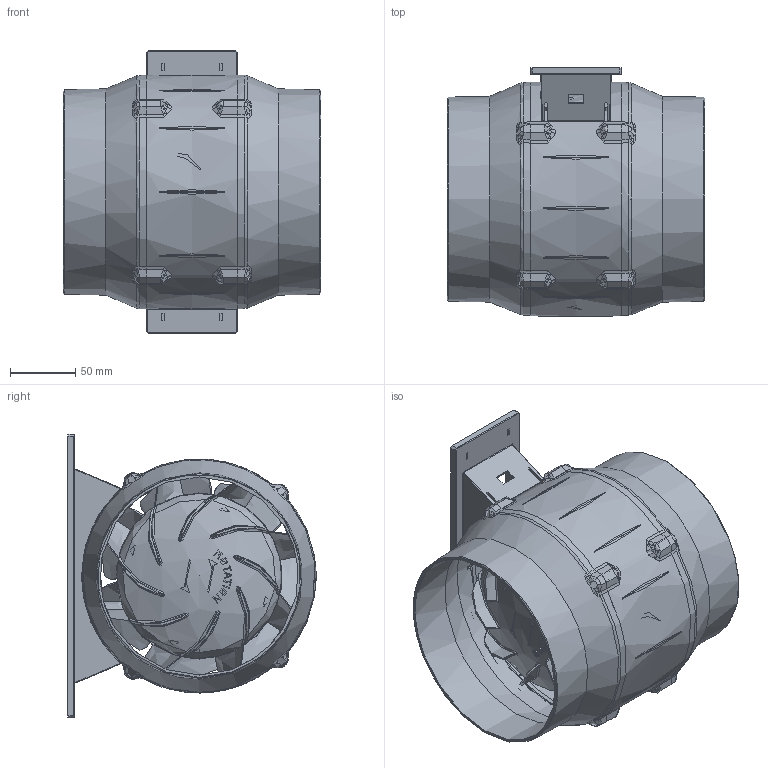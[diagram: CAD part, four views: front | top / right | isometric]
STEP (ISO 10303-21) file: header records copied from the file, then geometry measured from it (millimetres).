
FILE_DESCRIPTION ((), '1');
FILE_NAME ('C:\Users\Administrator\Desktop\塑料风机产品页\A160.stp', '2026-09-11T17:42:02', ('Unknown'), ('Unknown'), 'HarmonyWare STEP v2.1.4', 'HarmonyWare Translators', '');
FILE_SCHEMA (('CONFIG_CONTROL_DESIGN'));
Length unit declared in the file: millimetre
Products named in the file (10): 150H01防水款 ASM_objects
Assembly tree (9 placements, depth 2):
  (unnamed)
    150H01防水款 ASM_objects
    150H01防水款 ASM_objects
    150H01防水款 ASM_objects
    150H01防水款 ASM_objects
    150H01防水款 ASM_objects
    150H01防水款 ASM_objects
    150H01防水款 ASM_objects
    150H01防水款 ASM_objects
    150H01防水款 ASM_objects
Bounding box: 198 x 191.05 x 218 mm (x, y, z)
Volume: 653443.1 mm3; surface area: 556196.2 mm2
Topology: 9 solids, 9 shells, 2617 faces, 7394 edges, 4888 vertices
Faces by surface type: bspline 2617
Entity records: 177542 total; most frequent: CARTESIAN_POINT 133936, ORIENTED_EDGE 14730, EDGE_CURVE 7365, B_SPLINE_CURVE_WITH_KNOTS 5461, VERTEX_POINT 4888, EDGE_LOOP 2823, FACE_OUTER_BOUND 2617, ADVANCED_FACE 2617
